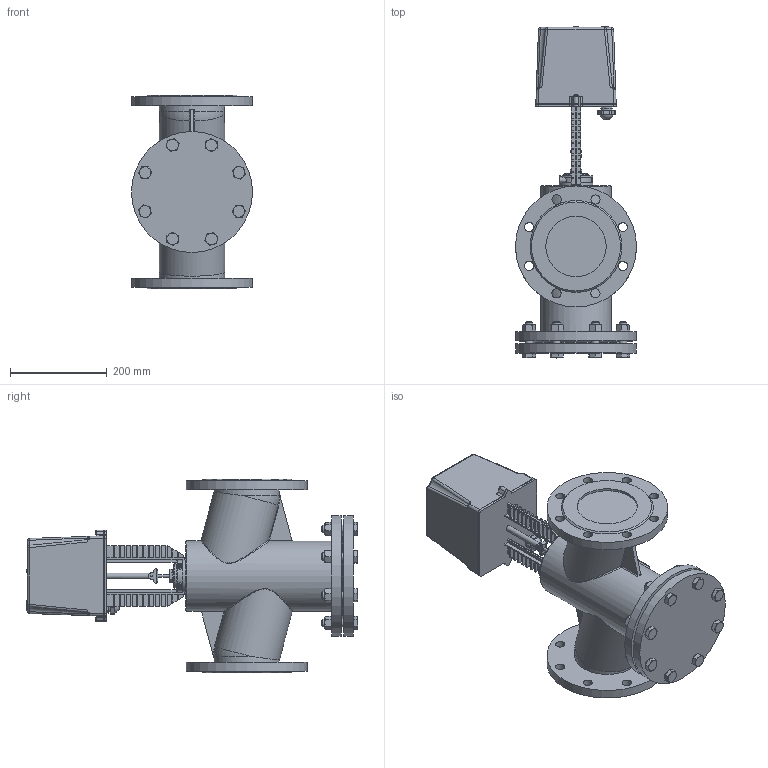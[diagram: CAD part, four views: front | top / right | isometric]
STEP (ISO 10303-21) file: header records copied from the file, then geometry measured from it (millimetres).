
FILE_DESCRIPTION(('STEP AP242'), '1');
FILE_NAME('VSR1-13V-PED-F Êëàïàí çàïîðíî-ðåãóëèðóþùèé DN.ru Äó125 Ðó16', '', ('UNSPECIFIED'), ('UNSPECIFIED'), 'C3D Converter', 'C3D Toolkit', '');
FILE_SCHEMA(('AP242_MANAGED_MODEL_BASED_3D_ENGINEERING_MIM_LF { 1 0 10303 442 1 1 4 }'));
Length unit declared in the file: millimetre
Products named in the file (1): VSR1-13V-PED-F
Bounding box: 250 x 686 x 400 mm (x, y, z)
Volume: 16746749.1 mm3; surface area: 934272 mm2
Topology: 1 solids, 1 shells, 1476 faces, 3810 edges, 2382 vertices
Faces by surface type: plane 782, cylinder 263, extrusion 167, cone 104, bspline 82, torus 48, sphere 30
Full cylindrical faces by diameter (mm): 4 x2, 6 x4, 7 x2, 11.5 x3, 12 x2, 13.835 x8, 16 x9, 18 x8, 19 x24, 24 x8, 25 x1, 50 x1, 70 x1, 125 x2, 135 x2, 145 x1, 250 x4
Entity records: 66552 total; most frequent: CARTESIAN_POINT 24172, ORIENTED_EDGE 7210, DIRECTION 6224, EDGE_CURVE 3605, VERTEX_POINT 2374, VECTOR 2252, LINE 2085, AXIS2_PLACEMENT_3D 1986
